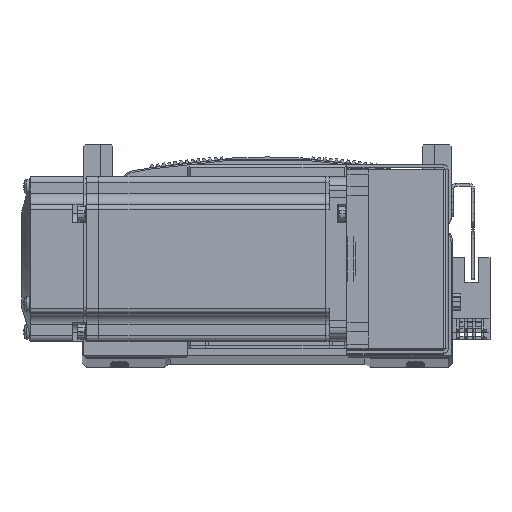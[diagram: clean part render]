
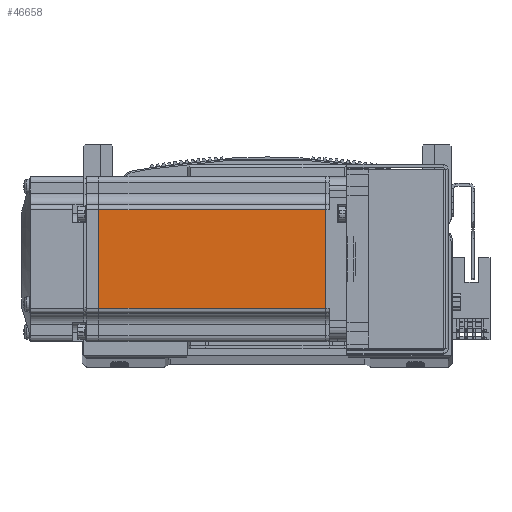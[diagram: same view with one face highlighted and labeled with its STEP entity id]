
A CAD part, top view. The second image highlights one B-rep face of the part: STEP entity #46658.
In plain terms, the highlighted planar face has unit normal (0, 0, 1) as drawn and (0, -1, 0) by its records, which use the part's own axes.
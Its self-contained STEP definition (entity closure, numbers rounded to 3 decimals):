
#1820 = FACE_OUTER_BOUND ( 'NONE', #17856, .T. ) ;
#17856 = EDGE_LOOP ( 'NONE', ( #83682, #83632, #83713, #83625 ) ) ;
#25599 = VERTEX_POINT ( 'NONE', #33710 ) ;
#25667 = VERTEX_POINT ( 'NONE', #33826 ) ;
#25707 = VERTEX_POINT ( 'NONE', #33810 ) ;
#25709 = VERTEX_POINT ( 'NONE', #33812 ) ;
#30257 = LINE ( 'NONE', #32521, #30263 ) ;
#30258 = LINE ( 'NONE', #32513, #30264 ) ;
#30263 = VECTOR ( 'NONE', #32524, 1000. ) ;
#30264 = VECTOR ( 'NONE', #32494, 1000. ) ;
#30294 = VECTOR ( 'NONE', #32475, 1000. ) ;
#30328 = LINE ( 'NONE', #32473, #30294 ) ;
#30343 = LINE ( 'NONE', #32517, #30345 ) ;
#30345 = VECTOR ( 'NONE', #32492, 1000. ) ;
#32473 = CARTESIAN_POINT ( 'NONE',  ( -7.75, -30., 0. ) ) ;
#32475 = DIRECTION ( 'NONE',  ( 0., 0., -1. ) ) ;
#32492 = DIRECTION ( 'NONE',  ( -1., 0., 0. ) ) ;
#32494 = DIRECTION ( 'NONE',  ( 0., 0., -1. ) ) ;
#32513 = CARTESIAN_POINT ( 'NONE',  ( -90.45, -30., 0. ) ) ;
#32517 = CARTESIAN_POINT ( 'NONE',  ( -6.5, -30., -18. ) ) ;
#32521 = CARTESIAN_POINT ( 'NONE',  ( -6.5, -30., 18. ) ) ;
#32524 = DIRECTION ( 'NONE',  ( -1., 0., 0. ) ) ;
#33710 = CARTESIAN_POINT ( 'NONE',  ( -7.75, -30., 18. ) ) ;
#33810 = CARTESIAN_POINT ( 'NONE',  ( -90.45, -30., -18. ) ) ;
#33812 = CARTESIAN_POINT ( 'NONE',  ( -90.45, -30., 18. ) ) ;
#33826 = CARTESIAN_POINT ( 'NONE',  ( -7.75, -30., -18. ) ) ;
#39821 = EDGE_CURVE ( 'NONE', #25599, #25667, #30328, .T. ) ;
#39846 = EDGE_CURVE ( 'NONE', #25709, #25707, #30258, .T. ) ;
#39847 = EDGE_CURVE ( 'NONE', #25667, #25707, #30343, .T. ) ;
#39850 = EDGE_CURVE ( 'NONE', #25599, #25709, #30257, .T. ) ;
#46658 = ADVANCED_FACE ( 'NONE', ( #1820 ), #79154, .T. ) ;
#79154 = PLANE ( 'NONE',  #85802 ) ;
#79155 = DIRECTION ( 'NONE',  ( 0., 0., -1. ) ) ;
#79166 = DIRECTION ( 'NONE',  ( 0., -1., 0. ) ) ;
#79186 = CARTESIAN_POINT ( 'NONE',  ( -6.5, -30., -25. ) ) ;
#83625 = ORIENTED_EDGE ( 'NONE', *, *, #39847, .F. ) ;
#83632 = ORIENTED_EDGE ( 'NONE', *, *, #39850, .T. ) ;
#83682 = ORIENTED_EDGE ( 'NONE', *, *, #39821, .F. ) ;
#83713 = ORIENTED_EDGE ( 'NONE', *, *, #39846, .T. ) ;
#85802 = AXIS2_PLACEMENT_3D ( 'NONE', #79186, #79166, #79155 ) ;
